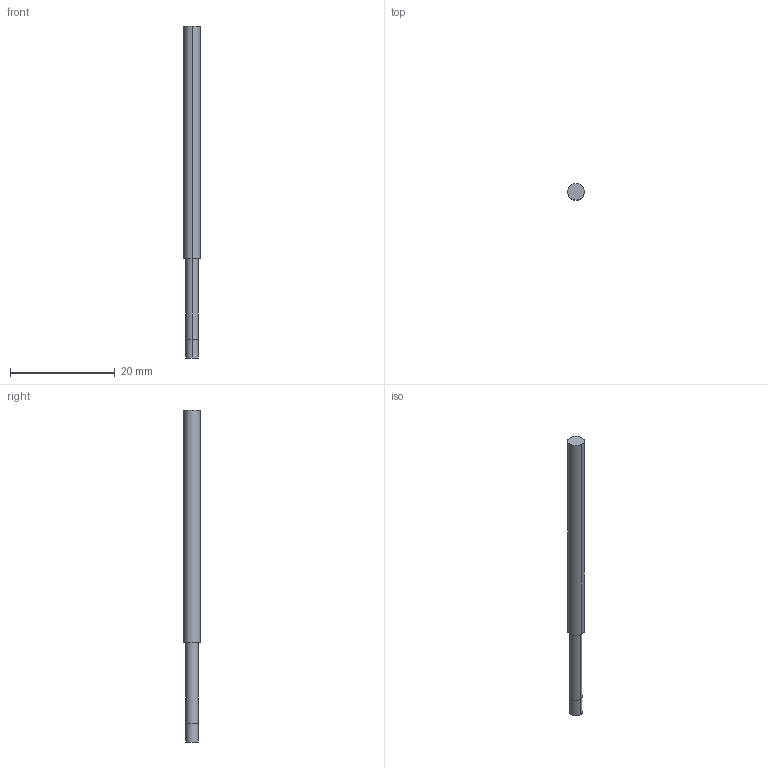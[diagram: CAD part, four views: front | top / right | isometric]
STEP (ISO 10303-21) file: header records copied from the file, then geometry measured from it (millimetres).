
FILE_DESCRIPTION((' '),'2;1');
FILE_NAME( '3MVS0938N8AH.stp', '2026-01-21T19:09:36', (' '), ('--- Datakit www.datakit.com---'), ' Datakit CrossCadWare V2025.4 Sep 19 2025', 'Mastercam 2027', ' ');
FILE_SCHEMA(('AUTOMOTIVE_DESIGN { 1 0 10303 214 1 1 1 1 }'));
Length unit declared in the file: inch
Products named in the file (1): 3MVS0938N8AH
Bounding box: 3.17 x 3.17 x 63.5 mm (x, y, z)
Volume: 436.9 mm3; surface area: 601.8 mm2
Topology: 1 solids, 1 shells, 9 faces, 16 edges, 10 vertices
Faces by surface type: cylinder 6, plane 3
Entity records: 302 total; most frequent: DIRECTION 54, CARTESIAN_POINT 40, ORIENTED_EDGE 32, AXIS2_PLACEMENT_3D 24, EDGE_CURVE 16, VERTEX_POINT 10, CIRCLE 10, EDGE_LOOP 10
